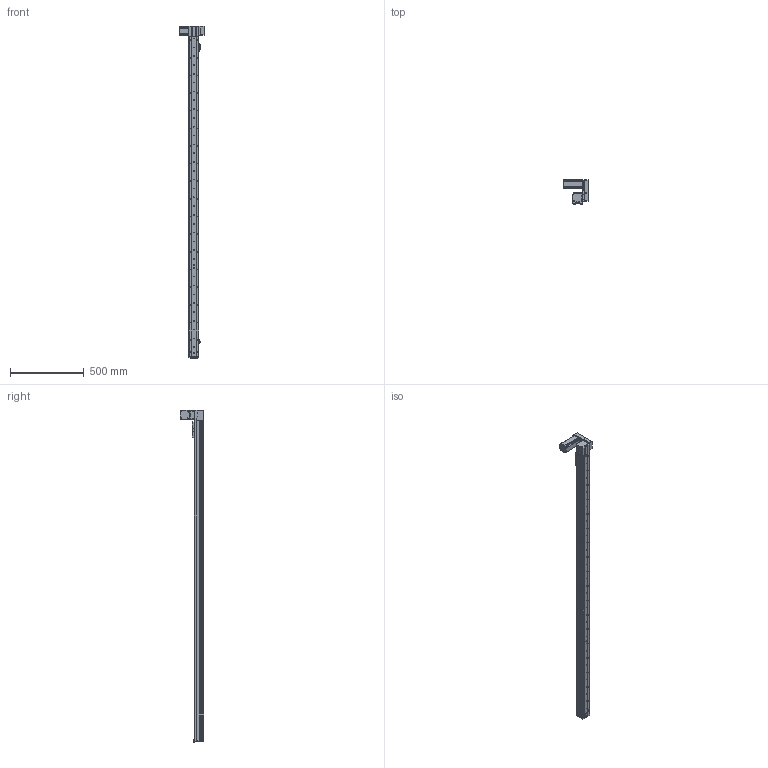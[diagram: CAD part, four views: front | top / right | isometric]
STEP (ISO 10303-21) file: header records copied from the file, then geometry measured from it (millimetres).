
FILE_DESCRIPTION (( 'STEP AP214' ), '1' );
FILE_NAME ('KSD68BS-S2000-MLU-CR.STEP', '2019-08-27T08:57:33', ( '微软用户' ), ( '微软中国' ), 'SwSTEP 2.0', 'SolidWorks 2014', '' );
FILE_SCHEMA (( 'AUTOMOTIVE_DESIGN' ));
Length unit declared in the file: millimetre
Products named in the file (14): KSD68BS-S2000-MLU-CR; KSD68BS 2000行程盖板全封闭; 68宽单导轨全封闭丝杆传动安装板1防护罩; KSD68BS 2000行程侧板全封闭; 68宽单导轨全封闭同步带端板; 68单导轨全封闭同步带电机座左; 68单导轨全封闭同步带安装板; 悵誘欶奻狟殏; 68宽马达安装板连板上折同步带; 感应片68宽全封闭; U倰嫖萇EEㄜSX672; 台达ECMA－C20604AS伺服电机（400W); 68遵裔啣揤啣1; KSD68BS 2000行程底板全封闭
Assembly tree (16 placements, depth 2):
  KSD68BS-S2000-MLU-CR
    KSD68BS 2000行程底板全封闭
    台达ECMA－C20604AS伺服电机（400W)
    U倰嫖萇EEㄜSX672  x3
    感应片68宽全封闭
    68宽马达安装板连板上折同步带
    悵誘欶奻狟殏
    68单导轨全封闭同步带安装板
    68单导轨全封闭同步带电机座左
    68宽单导轨全封闭同步带端板
    KSD68BS 2000行程侧板全封闭  x2
    68宽单导轨全封闭丝杆传动安装板1防护罩
    KSD68BS 2000行程盖板全封闭
    68遵裔啣揤啣1
Bounding box: 167.2 x 159.5 x 2258.1 mm (x, y, z)
Volume: 3881917.5 mm3; surface area: 1605644.5 mm2
Topology: 17 solids, 17 shells, 1650 faces, 4798 edges, 3052 vertices
Faces by surface type: cylinder 828, plane 622, cone 200
Entity records: 55343 total; most frequent: CARTESIAN_POINT 9730, DIRECTION 8202, ORIENTED_EDGE 7854, EDGE_CURVE 3927, AXIS2_PLACEMENT_3D 3008, VERTEX_POINT 2574, VECTOR 2186, LINE 2186
